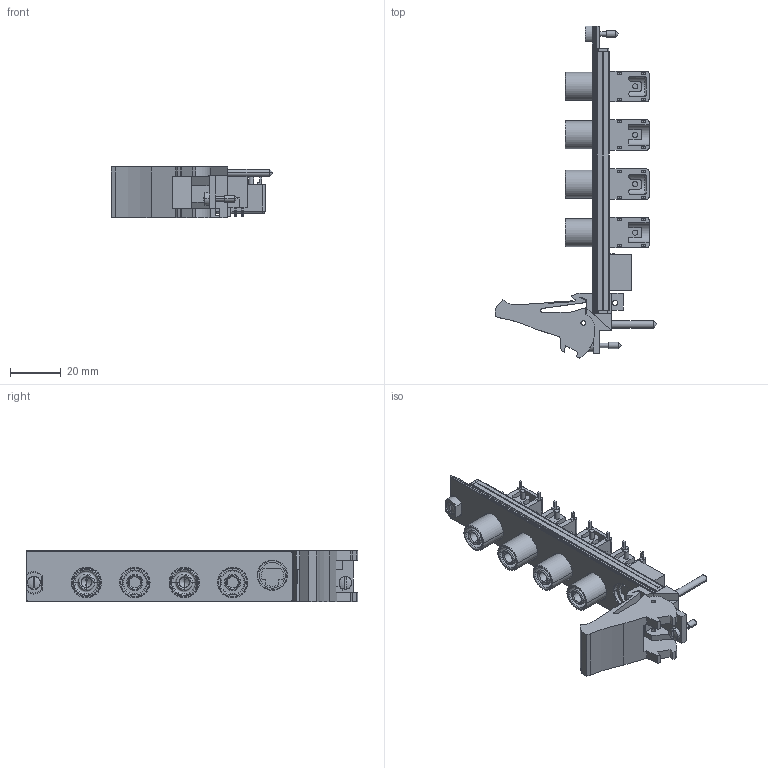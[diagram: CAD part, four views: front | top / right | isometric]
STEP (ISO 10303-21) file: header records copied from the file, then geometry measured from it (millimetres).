
FILE_DESCRIPTION((''),'2;1');
FILE_NAME('CD_PXI-4070','2009-12-07T',('jjorden'),(''),'PRO/ENGINEER BY PARAMETRIC TECHNOLOGY CORPORATION, 2006080','PRO/ENGINEER BY PARAMETRIC TECHNOLOGY CORPORATION, 2006080','');
FILE_SCHEMA(('CONFIG_CONTROL_DESIGN'));
Length unit declared in the file: inch
Products named in the file (1): CD_PXI-4070
Bounding box: 63.53 x 130.5 x 20.31 mm (x, y, z)
Volume: 27461.9 mm3; surface area: 28399.5 mm2
Topology: 7 solids, 7 shells, 784 faces, 2006 edges, 1302 vertices
Faces by surface type: plane 434, cylinder 218, extrusion 72, torus 26, cone 22, sphere 12
Entity records: 24616 total; most frequent: CARTESIAN_POINT 5409, ORIENTED_EDGE 3996, DIRECTION 3830, EDGE_CURVE 1998, VECTOR 1400, LINE 1328, VERTEX_POINT 1302, AXIS2_PLACEMENT_3D 1215
